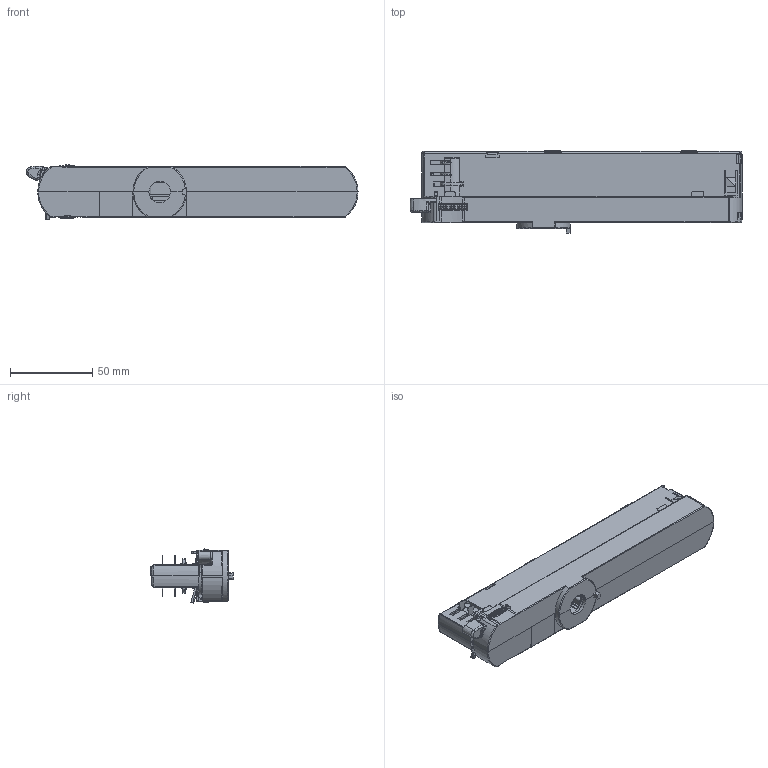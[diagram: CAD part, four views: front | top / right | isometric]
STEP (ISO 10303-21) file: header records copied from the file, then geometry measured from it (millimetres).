
FILE_DESCRIPTION (( 'STEP AP214' ), '1' );
FILE_NAME ('4 lines.STEP', '2022-12-08T03:29:37', ( '' ), ( '' ), 'SwSTEP 2.0', 'SolidWorks 2020', '' );
FILE_SCHEMA (( 'AUTOMOTIVE_DESIGN' ));
Length unit declared in the file: millimetre
Products named in the file (1): 4 lines
Bounding box: 202.19 x 50.1 x 33.07 mm (x, y, z)
Volume: 136069 mm3; surface area: 66884.1 mm2
Topology: 3 solids, 8 shells, 3237 faces, 8977 edges, 5672 vertices
Faces by surface type: plane 1661, bspline 939, cylinder 553, cone 51, torus 25, sphere 8
Entity records: 170456 total; most frequent: CARTESIAN_POINT 63206, ORIENTED_EDGE 17932, DIRECTION 11308, EDGE_CURVE 8966, VERTEX_POINT 5672, LINE 4670, VECTOR 4670, EDGE_LOOP 3320
